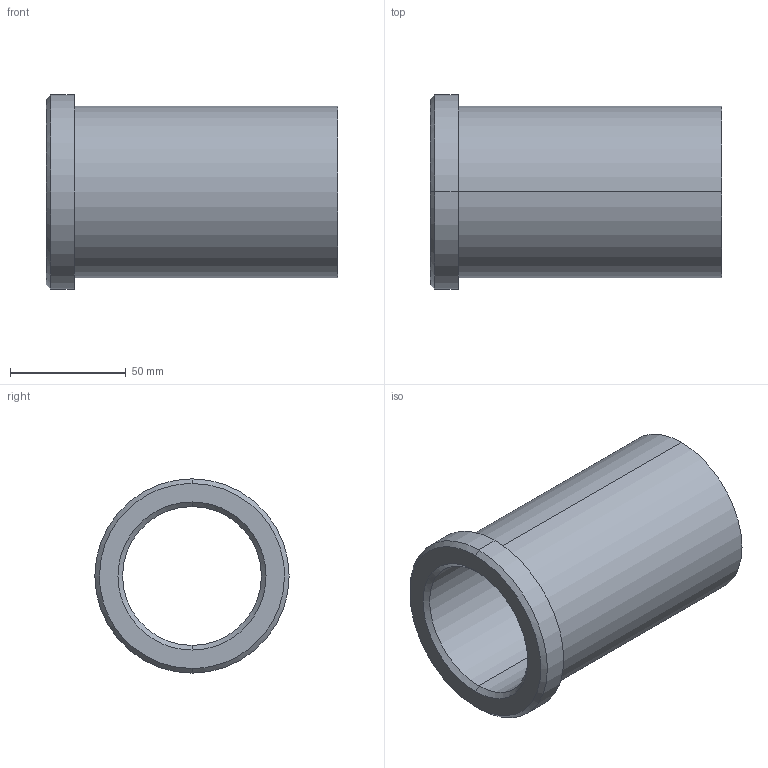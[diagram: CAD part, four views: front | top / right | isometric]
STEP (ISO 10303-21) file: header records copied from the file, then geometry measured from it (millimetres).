
FILE_DESCRIPTION(('CATIA V5 STEP Exchange'),'2;1');
FILE_NAME('C:\Users\Utente\Desktop\IO LAVORO\3D X SITO CF\X SITO\PLASTICA\353\353-60X126.stp','2021-05-14T17:57:49+00:00',('none'),('none'),'CATIA Version 5 Release 20 GA (IN-10)','CATIA V5 STEP AP203','none');
FILE_SCHEMA(('CONFIG_CONTROL_DESIGN'));
Length unit declared in the file: millimetre
Products named in the file (1): 353-60x126
Bounding box: 126 x 84 x 84 mm (x, y, z)
Volume: 199263.4 mm3; surface area: 58079.6 mm2
Topology: 1 solids, 1 shells, 15 faces, 48 edges, 36 vertices
Faces by surface type: cylinder 6, cone 4, plane 3, torus 2
Entity records: 680 total; most frequent: CARTESIAN_POINT 212, ORIENTED_EDGE 96, DIRECTION 70, EDGE_CURVE 48, AXIS2_PLACEMENT_3D 46, VERTEX_POINT 36, CIRCLE 30, EDGE_LOOP 18
